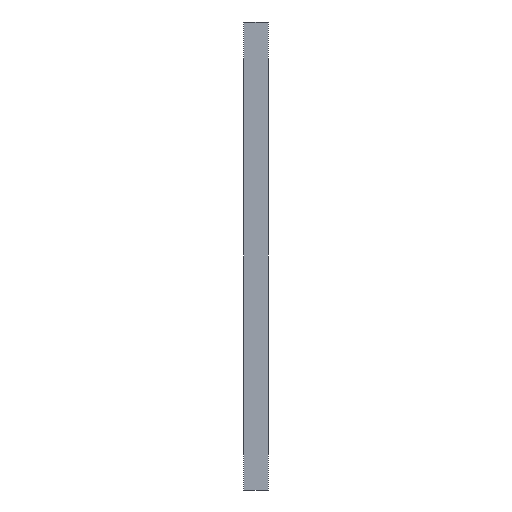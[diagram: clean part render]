
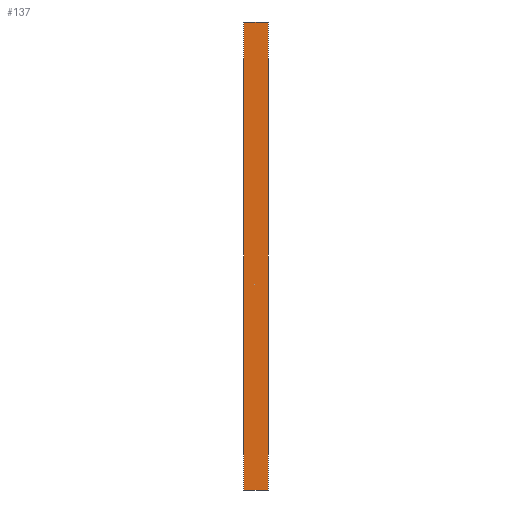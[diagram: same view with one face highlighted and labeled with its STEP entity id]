
A CAD part, front view. The second image highlights one B-rep face of the part: STEP entity #137.
In plain terms, the highlighted planar face has unit normal (0, -1, 0).
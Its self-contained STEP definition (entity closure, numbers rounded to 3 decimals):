
#21 = EDGE_CURVE('',#22,#24,#26,.T.);
#22 = VERTEX_POINT('',#23);
#23 = CARTESIAN_POINT('',(-18.,-163.5,29.));
#24 = VERTEX_POINT('',#25);
#25 = CARTESIAN_POINT('',(-16.,-163.5,29.));
#26 = SURFACE_CURVE('',#27,(#31,#43),.PCURVE_S1.);
#27 = LINE('',#28,#29);
#28 = CARTESIAN_POINT('',(-18.,-163.5,29.));
#29 = VECTOR('',#30,1.);
#30 = DIRECTION('',(1.,0.,0.));
#31 = PCURVE('',#32,#37);
#32 = PLANE('',#33);
#33 = AXIS2_PLACEMENT_3D('',#34,#35,#36);
#34 = CARTESIAN_POINT('',(-18.,-163.5,29.));
#35 = DIRECTION('',(0.,0.,1.));
#36 = DIRECTION('',(0.,1.,0.));
#37 = DEFINITIONAL_REPRESENTATION('',(#38),#42);
#38 = LINE('',#39,#40);
#39 = CARTESIAN_POINT('',(0.,0.));
#40 = VECTOR('',#41,1.);
#41 = DIRECTION('',(0.,-1.));
#42 = ( GEOMETRIC_REPRESENTATION_CONTEXT(2) 
PARAMETRIC_REPRESENTATION_CONTEXT() REPRESENTATION_CONTEXT('2D SPACE',''
  ) );
#43 = PCURVE('',#44,#49);
#44 = PLANE('',#45);
#45 = AXIS2_PLACEMENT_3D('',#46,#47,#48);
#46 = CARTESIAN_POINT('',(-18.,-163.5,67.));
#47 = DIRECTION('',(-0.,1.,0.));
#48 = DIRECTION('',(0.,0.,-1.));
#49 = DEFINITIONAL_REPRESENTATION('',(#50),#54);
#50 = LINE('',#51,#52);
#51 = CARTESIAN_POINT('',(38.,0.));
#52 = VECTOR('',#53,1.);
#53 = DIRECTION('',(0.,-1.));
#54 = ( GEOMETRIC_REPRESENTATION_CONTEXT(2) 
PARAMETRIC_REPRESENTATION_CONTEXT() REPRESENTATION_CONTEXT('2D SPACE',''
  ) );
#72 = PLANE('',#73);
#73 = AXIS2_PLACEMENT_3D('',#74,#75,#76);
#74 = CARTESIAN_POINT('',(-16.,-139.,48.));
#75 = DIRECTION('',(1.,0.,0.));
#76 = DIRECTION('',(-0.,0.,1.));
#126 = PLANE('',#127);
#127 = AXIS2_PLACEMENT_3D('',#128,#129,#130);
#128 = CARTESIAN_POINT('',(-18.,-139.,48.));
#129 = DIRECTION('',(1.,0.,0.));
#130 = DIRECTION('',(-0.,0.,1.));
#137 = ADVANCED_FACE('',(#138),#44,.F.);
#138 = FACE_BOUND('',#139,.F.);
#139 = EDGE_LOOP('',(#140,#170,#191,#192));
#140 = ORIENTED_EDGE('',*,*,#141,.T.);
#141 = EDGE_CURVE('',#142,#144,#146,.T.);
#142 = VERTEX_POINT('',#143);
#143 = CARTESIAN_POINT('',(-18.,-163.5,67.));
#144 = VERTEX_POINT('',#145);
#145 = CARTESIAN_POINT('',(-16.,-163.5,67.));
#146 = SURFACE_CURVE('',#147,(#151,#158),.PCURVE_S1.);
#147 = LINE('',#148,#149);
#148 = CARTESIAN_POINT('',(-18.,-163.5,67.));
#149 = VECTOR('',#150,1.);
#150 = DIRECTION('',(1.,0.,0.));
#151 = PCURVE('',#44,#152);
#152 = DEFINITIONAL_REPRESENTATION('',(#153),#157);
#153 = LINE('',#154,#155);
#154 = CARTESIAN_POINT('',(0.,0.));
#155 = VECTOR('',#156,1.);
#156 = DIRECTION('',(0.,-1.));
#157 = ( GEOMETRIC_REPRESENTATION_CONTEXT(2) 
PARAMETRIC_REPRESENTATION_CONTEXT() REPRESENTATION_CONTEXT('2D SPACE',''
  ) );
#158 = PCURVE('',#159,#164);
#159 = PLANE('',#160);
#160 = AXIS2_PLACEMENT_3D('',#161,#162,#163);
#161 = CARTESIAN_POINT('',(-18.,-114.5,67.));
#162 = DIRECTION('',(0.,0.,-1.));
#163 = DIRECTION('',(0.,-1.,0.));
#164 = DEFINITIONAL_REPRESENTATION('',(#165),#169);
#165 = LINE('',#166,#167);
#166 = CARTESIAN_POINT('',(49.,0.));
#167 = VECTOR('',#168,1.);
#168 = DIRECTION('',(0.,-1.));
#169 = ( GEOMETRIC_REPRESENTATION_CONTEXT(2) 
PARAMETRIC_REPRESENTATION_CONTEXT() REPRESENTATION_CONTEXT('2D SPACE',''
  ) );
#170 = ORIENTED_EDGE('',*,*,#171,.T.);
#171 = EDGE_CURVE('',#144,#24,#172,.T.);
#172 = SURFACE_CURVE('',#173,(#177,#184),.PCURVE_S1.);
#173 = LINE('',#174,#175);
#174 = CARTESIAN_POINT('',(-16.,-163.5,67.));
#175 = VECTOR('',#176,1.);
#176 = DIRECTION('',(0.,0.,-1.));
#177 = PCURVE('',#44,#178);
#178 = DEFINITIONAL_REPRESENTATION('',(#179),#183);
#179 = LINE('',#180,#181);
#180 = CARTESIAN_POINT('',(0.,-2.));
#181 = VECTOR('',#182,1.);
#182 = DIRECTION('',(1.,0.));
#183 = ( GEOMETRIC_REPRESENTATION_CONTEXT(2) 
PARAMETRIC_REPRESENTATION_CONTEXT() REPRESENTATION_CONTEXT('2D SPACE',''
  ) );
#184 = PCURVE('',#72,#185);
#185 = DEFINITIONAL_REPRESENTATION('',(#186),#190);
#186 = LINE('',#187,#188);
#187 = CARTESIAN_POINT('',(19.,24.5));
#188 = VECTOR('',#189,1.);
#189 = DIRECTION('',(-1.,0.));
#190 = ( GEOMETRIC_REPRESENTATION_CONTEXT(2) 
PARAMETRIC_REPRESENTATION_CONTEXT() REPRESENTATION_CONTEXT('2D SPACE',''
  ) );
#191 = ORIENTED_EDGE('',*,*,#21,.F.);
#192 = ORIENTED_EDGE('',*,*,#193,.F.);
#193 = EDGE_CURVE('',#142,#22,#194,.T.);
#194 = SURFACE_CURVE('',#195,(#199,#206),.PCURVE_S1.);
#195 = LINE('',#196,#197);
#196 = CARTESIAN_POINT('',(-18.,-163.5,67.));
#197 = VECTOR('',#198,1.);
#198 = DIRECTION('',(0.,0.,-1.));
#199 = PCURVE('',#44,#200);
#200 = DEFINITIONAL_REPRESENTATION('',(#201),#205);
#201 = LINE('',#202,#203);
#202 = CARTESIAN_POINT('',(0.,0.));
#203 = VECTOR('',#204,1.);
#204 = DIRECTION('',(1.,0.));
#205 = ( GEOMETRIC_REPRESENTATION_CONTEXT(2) 
PARAMETRIC_REPRESENTATION_CONTEXT() REPRESENTATION_CONTEXT('2D SPACE',''
  ) );
#206 = PCURVE('',#126,#207);
#207 = DEFINITIONAL_REPRESENTATION('',(#208),#212);
#208 = LINE('',#209,#210);
#209 = CARTESIAN_POINT('',(19.,24.5));
#210 = VECTOR('',#211,1.);
#211 = DIRECTION('',(-1.,0.));
#212 = ( GEOMETRIC_REPRESENTATION_CONTEXT(2) 
PARAMETRIC_REPRESENTATION_CONTEXT() REPRESENTATION_CONTEXT('2D SPACE',''
  ) );
